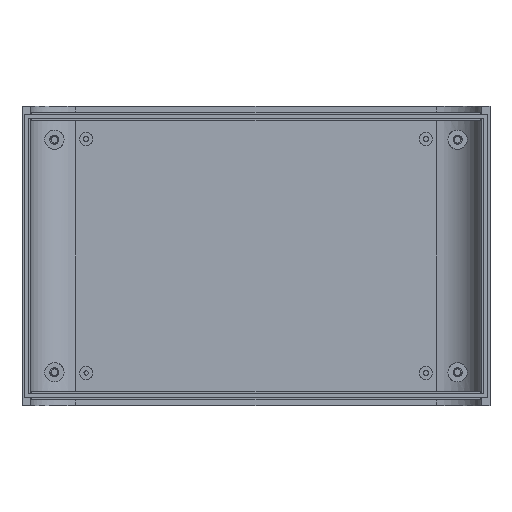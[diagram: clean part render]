
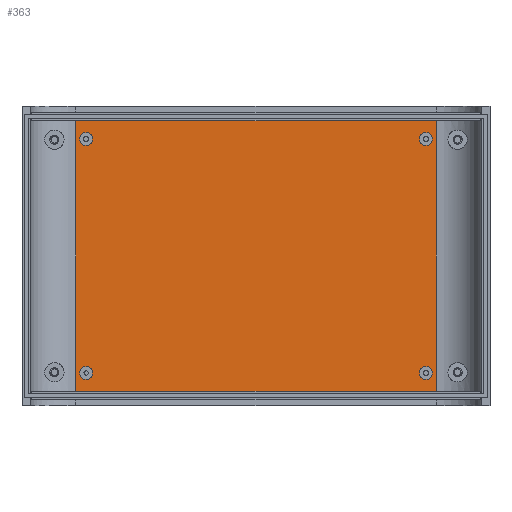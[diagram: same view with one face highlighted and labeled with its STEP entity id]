
A CAD part, front view. The second image highlights one B-rep face of the part: STEP entity #363.
In plain terms, the highlighted planar face has unit normal (0, -1, 0).
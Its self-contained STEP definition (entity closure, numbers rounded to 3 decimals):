
#150 = EDGE_CURVE ( 'NONE', #944, #1388, #3179, .T. ) ;
#194 = CIRCLE ( 'NONE', #1699, 3. ) ;
#211 = DIRECTION ( 'NONE',  ( 0., -1., 0. ) ) ;
#212 = EDGE_CURVE ( 'NONE', #2822, #3313, #2420, .T. ) ;
#246 = ORIENTED_EDGE ( 'NONE', *, *, #1568, .F. ) ;
#257 = CARTESIAN_POINT ( 'NONE',  ( -104.9, 21.1, -63.25 ) ) ;
#259 = DIRECTION ( 'NONE',  ( 0., -1., 0. ) ) ;
#327 = EDGE_CURVE ( 'NONE', #530, #2679, #2867, .T. ) ;
#363 = ADVANCED_FACE ( 'NONE', ( #674, #1369, #2083, #2162, #3384 ), #3158, .T. ) ;
#391 = AXIS2_PLACEMENT_3D ( 'NONE', #1986, #392, #2250 ) ;
#392 = DIRECTION ( 'NONE',  ( 0., -1., 0. ) ) ;
#412 = AXIS2_PLACEMENT_3D ( 'NONE', #2551, #962, #2821 ) ;
#433 = CARTESIAN_POINT ( 'NONE',  ( 79.5, 21.1, 51.75 ) ) ;
#451 = ORIENTED_EDGE ( 'NONE', *, *, #1516, .F. ) ;
#525 = EDGE_CURVE ( 'NONE', #2744, #2627, #1004, .T. ) ;
#530 = VERTEX_POINT ( 'NONE', #2244 ) ;
#566 = ORIENTED_EDGE ( 'NONE', *, *, #212, .F. ) ;
#664 = CARTESIAN_POINT ( 'NONE',  ( -79.5, 21.1, -51.75 ) ) ;
#674 = FACE_BOUND ( 'NONE', #1628, .T. ) ;
#783 = EDGE_CURVE ( 'NONE', #1813, #1978, #2292, .T. ) ;
#787 = VECTOR ( 'NONE', #2275, 1000. ) ;
#798 = EDGE_CURVE ( 'NONE', #530, #1574, #1494, .T. ) ;
#939 = CARTESIAN_POINT ( 'NONE',  ( -79.5, 21.1, -54.75 ) ) ;
#944 = VERTEX_POINT ( 'NONE', #3154 ) ;
#952 = LINE ( 'NONE', #1112, #2283 ) ;
#962 = DIRECTION ( 'NONE',  ( 0., -1., 0. ) ) ;
#980 = EDGE_CURVE ( 'NONE', #2096, #1574, #1610, .T. ) ;
#1004 = CIRCLE ( 'NONE', #3361, 3. ) ;
#1021 = ORIENTED_EDGE ( 'NONE', *, *, #980, .T. ) ;
#1085 = AXIS2_PLACEMENT_3D ( 'NONE', #1848, #259, #2115 ) ;
#1098 = CARTESIAN_POINT ( 'NONE',  ( -79.5, 21.1, -57.75 ) ) ;
#1112 = CARTESIAN_POINT ( 'NONE',  ( 84.3, 21.1, -70. ) ) ;
#1201 = DIRECTION ( 'NONE',  ( 0., 0., -1. ) ) ;
#1258 = DIRECTION ( 'NONE',  ( 0., -1., 0. ) ) ;
#1260 = CARTESIAN_POINT ( 'NONE',  ( 79.5, 21.1, 57.75 ) ) ;
#1338 = AXIS2_PLACEMENT_3D ( 'NONE', #2846, #1258, #3103 ) ;
#1369 = FACE_BOUND ( 'NONE', #2063, .T. ) ;
#1388 = VERTEX_POINT ( 'NONE', #3005 ) ;
#1409 = CARTESIAN_POINT ( 'NONE',  ( 84.3, 21.1, 63.25 ) ) ;
#1453 = VECTOR ( 'NONE', #1656, 1000. ) ;
#1463 = CARTESIAN_POINT ( 'NONE',  ( 79.5, 21.1, -54.75 ) ) ;
#1494 = LINE ( 'NONE', #3049, #787 ) ;
#1516 = EDGE_CURVE ( 'NONE', #1978, #1813, #1585, .T. ) ;
#1528 = CARTESIAN_POINT ( 'NONE',  ( -79.5, 21.1, 54.75 ) ) ;
#1529 = EDGE_CURVE ( 'NONE', #3313, #2822, #194, .T. ) ;
#1568 = EDGE_CURVE ( 'NONE', #1388, #944, #2907, .T. ) ;
#1574 = VERTEX_POINT ( 'NONE', #3151 ) ;
#1576 = CARTESIAN_POINT ( 'NONE',  ( -104.9, 21.1, 63.25 ) ) ;
#1581 = CARTESIAN_POINT ( 'NONE',  ( -84.3, 21.1, -70. ) ) ;
#1585 = CIRCLE ( 'NONE', #1338, 3. ) ;
#1595 = ORIENTED_EDGE ( 'NONE', *, *, #1529, .F. ) ;
#1610 = LINE ( 'NONE', #1576, #2929 ) ;
#1624 = ORIENTED_EDGE ( 'NONE', *, *, #798, .F. ) ;
#1628 = EDGE_LOOP ( 'NONE', ( #1734, #246 ) ) ;
#1656 = DIRECTION ( 'NONE',  ( 1., 0., 0. ) ) ;
#1699 = AXIS2_PLACEMENT_3D ( 'NONE', #1797, #211, #2058 ) ;
#1700 = CARTESIAN_POINT ( 'NONE',  ( -79.5, 21.1, 57.75 ) ) ;
#1734 = ORIENTED_EDGE ( 'NONE', *, *, #150, .F. ) ;
#1740 = DIRECTION ( 'NONE',  ( 0., 0., -1. ) ) ;
#1741 = CARTESIAN_POINT ( 'NONE',  ( 84.3, 21.1, -63.25 ) ) ;
#1797 = CARTESIAN_POINT ( 'NONE',  ( 79.5, 21.1, 54.75 ) ) ;
#1813 = VERTEX_POINT ( 'NONE', #664 ) ;
#1840 = EDGE_LOOP ( 'NONE', ( #3402, #451 ) ) ;
#1848 = CARTESIAN_POINT ( 'NONE',  ( 79.5, 21.1, -54.75 ) ) ;
#1858 = DIRECTION ( 'NONE',  ( 0., 0., -1. ) ) ;
#1921 = ORIENTED_EDGE ( 'NONE', *, *, #327, .T. ) ;
#1978 = VERTEX_POINT ( 'NONE', #1098 ) ;
#1985 = CIRCLE ( 'NONE', #391, 3. ) ;
#1986 = CARTESIAN_POINT ( 'NONE',  ( -79.5, 21.1, 54.75 ) ) ;
#2058 = DIRECTION ( 'NONE',  ( 0., 0., -1. ) ) ;
#2063 = EDGE_LOOP ( 'NONE', ( #3077, #3400 ) ) ;
#2083 = FACE_OUTER_BOUND ( 'NONE', #3357, .T. ) ;
#2096 = VERTEX_POINT ( 'NONE', #1409 ) ;
#2103 = DIRECTION ( 'NONE',  ( 0., -1., 0. ) ) ;
#2115 = DIRECTION ( 'NONE',  ( 0., 0., -1. ) ) ;
#2162 = FACE_BOUND ( 'NONE', #1840, .T. ) ;
#2244 = CARTESIAN_POINT ( 'NONE',  ( -84.3, 21.1, -63.25 ) ) ;
#2250 = DIRECTION ( 'NONE',  ( 0., 0., -1. ) ) ;
#2257 = AXIS2_PLACEMENT_3D ( 'NONE', #939, #2792, #1201 ) ;
#2260 = EDGE_CURVE ( 'NONE', #2679, #2096, #952, .T. ) ;
#2275 = DIRECTION ( 'NONE',  ( 0., 0., 1. ) ) ;
#2283 = VECTOR ( 'NONE', #2703, 1000. ) ;
#2292 = CIRCLE ( 'NONE', #2257, 3. ) ;
#2393 = DIRECTION ( 'NONE',  ( -1., 0., 0. ) ) ;
#2420 = CIRCLE ( 'NONE', #412, 3. ) ;
#2551 = CARTESIAN_POINT ( 'NONE',  ( 79.5, 21.1, 54.75 ) ) ;
#2582 = DIRECTION ( 'NONE',  ( 0., -1., 0. ) ) ;
#2627 = VERTEX_POINT ( 'NONE', #1700 ) ;
#2645 = EDGE_CURVE ( 'NONE', #2627, #2744, #1985, .T. ) ;
#2679 = VERTEX_POINT ( 'NONE', #1741 ) ;
#2703 = DIRECTION ( 'NONE',  ( 0., 0., 1. ) ) ;
#2744 = VERTEX_POINT ( 'NONE', #2823 ) ;
#2782 = AXIS2_PLACEMENT_3D ( 'NONE', #1581, #2103, #1858 ) ;
#2792 = DIRECTION ( 'NONE',  ( 0., -1., 0. ) ) ;
#2821 = DIRECTION ( 'NONE',  ( 0., 0., -1. ) ) ;
#2822 = VERTEX_POINT ( 'NONE', #1260 ) ;
#2823 = CARTESIAN_POINT ( 'NONE',  ( -79.5, 21.1, 51.75 ) ) ;
#2846 = CARTESIAN_POINT ( 'NONE',  ( -79.5, 21.1, -54.75 ) ) ;
#2867 = LINE ( 'NONE', #257, #1453 ) ;
#2907 = CIRCLE ( 'NONE', #1085, 3. ) ;
#2929 = VECTOR ( 'NONE', #2393, 1000. ) ;
#3005 = CARTESIAN_POINT ( 'NONE',  ( 79.5, 21.1, -57.75 ) ) ;
#3049 = CARTESIAN_POINT ( 'NONE',  ( -84.3, 21.1, -70. ) ) ;
#3077 = ORIENTED_EDGE ( 'NONE', *, *, #2645, .F. ) ;
#3103 = DIRECTION ( 'NONE',  ( 0., 0., -1. ) ) ;
#3151 = CARTESIAN_POINT ( 'NONE',  ( -84.3, 21.1, 63.25 ) ) ;
#3154 = CARTESIAN_POINT ( 'NONE',  ( 79.5, 21.1, -51.75 ) ) ;
#3158 = PLANE ( 'NONE',  #2782 ) ;
#3179 = CIRCLE ( 'NONE', #3321, 3. ) ;
#3199 = EDGE_LOOP ( 'NONE', ( #566, #1595 ) ) ;
#3305 = DIRECTION ( 'NONE',  ( 0., -1., 0. ) ) ;
#3313 = VERTEX_POINT ( 'NONE', #433 ) ;
#3321 = AXIS2_PLACEMENT_3D ( 'NONE', #1463, #3305, #1740 ) ;
#3357 = EDGE_LOOP ( 'NONE', ( #1921, #3369, #1021, #1624 ) ) ;
#3361 = AXIS2_PLACEMENT_3D ( 'NONE', #1528, #2582, #3368 ) ;
#3368 = DIRECTION ( 'NONE',  ( 0., 0., -1. ) ) ;
#3369 = ORIENTED_EDGE ( 'NONE', *, *, #2260, .T. ) ;
#3384 = FACE_BOUND ( 'NONE', #3199, .T. ) ;
#3400 = ORIENTED_EDGE ( 'NONE', *, *, #525, .F. ) ;
#3402 = ORIENTED_EDGE ( 'NONE', *, *, #783, .F. ) ;
